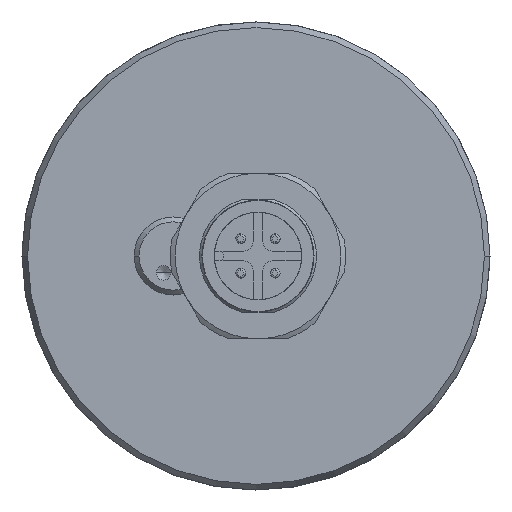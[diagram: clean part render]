
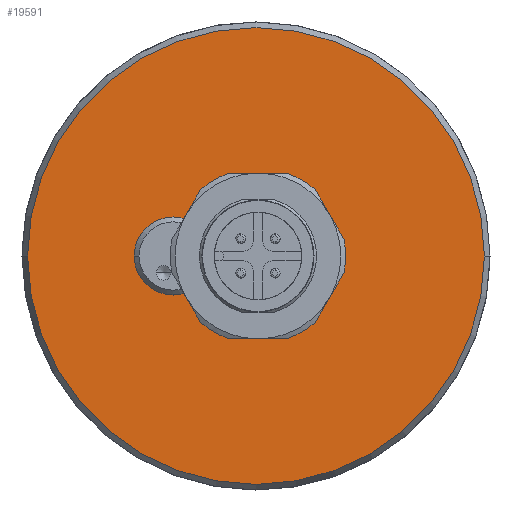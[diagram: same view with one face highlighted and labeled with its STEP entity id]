
A CAD part, left-side view. The second image highlights one B-rep face of the part: STEP entity #19591.
In plain terms, the highlighted planar face has unit normal (-1, 0, 0).
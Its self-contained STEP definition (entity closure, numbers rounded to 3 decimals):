
#6551=CARTESIAN_POINT('',(0.,0.,
0.));
#6552=DIRECTION('',(1.,0.,0.));
#6553=DIRECTION('',(0.,-1.,0.));
#6554=AXIS2_PLACEMENT_3D('',#6551,#6552,#6553);
#6556=CARTESIAN_POINT('',(0.,0.,
0.));
#6557=DIRECTION('',(1.,0.,0.));
#6558=DIRECTION('',(0.,0.,-1.));
#6559=AXIS2_PLACEMENT_3D('',#6556,#6557,#6558);
#6561=CARTESIAN_POINT('',(0.,0.,0.));
#6562=DIRECTION('',(1.,0.,0.));
#6563=DIRECTION('',(0.,1.,0.));
#6564=AXIS2_PLACEMENT_3D('',#6561,#6562,#6563);
#6566=CARTESIAN_POINT('',(0.,0.,0.));
#6567=DIRECTION('',(1.,0.,0.));
#6568=DIRECTION('',(0.,0.,1.));
#6569=AXIS2_PLACEMENT_3D('',#6566,#6567,#6568);
#6571=CARTESIAN_POINT('',(0.,8.5,0.));
#6572=DIRECTION('',(-1.,0.,0.));
#6573=DIRECTION('',(0.,-1.,0.));
#6574=AXIS2_PLACEMENT_3D('',#6571,#6572,#6573);
#6576=CARTESIAN_POINT('',(0.,8.5,0.));
#6577=DIRECTION('',(-1.,0.,0.));
#6578=DIRECTION('',(0.,1.,0.));
#6579=AXIS2_PLACEMENT_3D('',#6576,#6577,#6578);
#6581=CARTESIAN_POINT('',(0.,0.,0.));
#6582=DIRECTION('',(-1.,0.,0.));
#6583=DIRECTION('',(0.,0.,1.));
#6584=AXIS2_PLACEMENT_3D('',#6581,#6582,#6583);
#6586=CARTESIAN_POINT('',(0.,0.,0.));
#6587=DIRECTION('',(-1.,0.,0.));
#6588=DIRECTION('',(0.,0.,-1.));
#6589=AXIS2_PLACEMENT_3D('',#6586,#6587,#6588);
#9088=CARTESIAN_POINT('',(0.,0.,2.55));
#9089=CARTESIAN_POINT('',(0.,0.,-2.55));
#9090=VERTEX_POINT('',#9088);
#9091=VERTEX_POINT('',#9089);
#9092=CARTESIAN_POINT('',(0.,-23.422,
0.));
#9093=CARTESIAN_POINT('',(0.,0.,-23.422));
#9094=VERTEX_POINT('',#9092);
#9095=VERTEX_POINT('',#9093);
#9096=CARTESIAN_POINT('',(0.,23.422,
0.));
#9097=VERTEX_POINT('',#9096);
#9098=CARTESIAN_POINT('',(0.,0.,
23.422));
#9099=VERTEX_POINT('',#9098);
#9100=CARTESIAN_POINT('',(0.,4.5,0.));
#9101=CARTESIAN_POINT('',(0.,12.5,0.));
#9102=VERTEX_POINT('',#9100);
#9103=VERTEX_POINT('',#9101);
#19565=CARTESIAN_POINT('',(0.,0.,0.));
#19566=DIRECTION('',(-1.,0.,0.));
#19567=DIRECTION('',(0.,1.,0.));
#19568=AXIS2_PLACEMENT_3D('',#19565,#19566,#19567);
#19569=PLANE('',#19568);
#19571=ORIENTED_EDGE('',*,*,#19570,.T.);
#19573=ORIENTED_EDGE('',*,*,#19572,.T.);
#19575=ORIENTED_EDGE('',*,*,#19574,.T.);
#19577=ORIENTED_EDGE('',*,*,#19576,.T.);
#19578=EDGE_LOOP('',(#19571,#19573,#19575,#19577));
#19579=FACE_OUTER_BOUND('',#19578,.F.);
#19581=ORIENTED_EDGE('',*,*,#19580,.T.);
#19583=ORIENTED_EDGE('',*,*,#19582,.T.);
#19584=EDGE_LOOP('',(#19581,#19583));
#19585=FACE_BOUND('',#19584,.F.);
#19586=ORIENTED_EDGE('',*,*,#19548,.T.);
#19588=ORIENTED_EDGE('',*,*,#19587,.T.);
#19589=EDGE_LOOP('',(#19586,#19588));
#19590=FACE_BOUND('',#19589,.F.);
#19591=ADVANCED_FACE('',(#19579,#19585,#19590),#19569,.T.);
#6555=CIRCLE('',#6554,23.422);
#6560=CIRCLE('',#6559,23.422);
#6565=CIRCLE('',#6564,23.422);
#6570=CIRCLE('',#6569,23.422);
#6575=CIRCLE('',#6574,4.);
#6580=CIRCLE('',#6579,4.);
#6585=CIRCLE('',#6584,2.55);
#6590=CIRCLE('',#6589,2.55);
#19548=EDGE_CURVE('',#9090,#9091,#6585,.T.);
#19570=EDGE_CURVE('',#9094,#9095,#6555,.T.);
#19572=EDGE_CURVE('',#9095,#9097,#6560,.T.);
#19574=EDGE_CURVE('',#9097,#9099,#6565,.T.);
#19576=EDGE_CURVE('',#9099,#9094,#6570,.T.);
#19580=EDGE_CURVE('',#9102,#9103,#6575,.T.);
#19582=EDGE_CURVE('',#9103,#9102,#6580,.T.);
#19587=EDGE_CURVE('',#9091,#9090,#6590,.T.);
